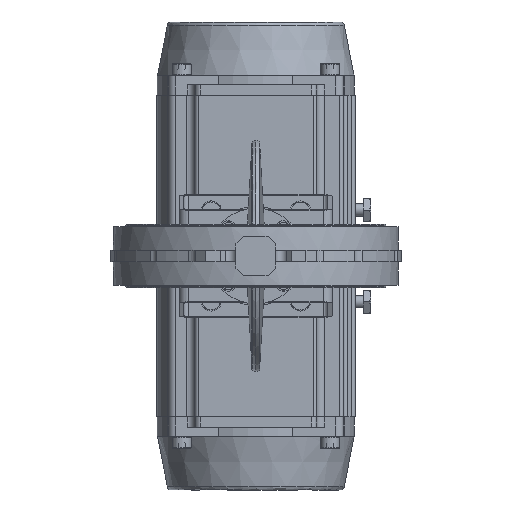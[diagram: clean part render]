
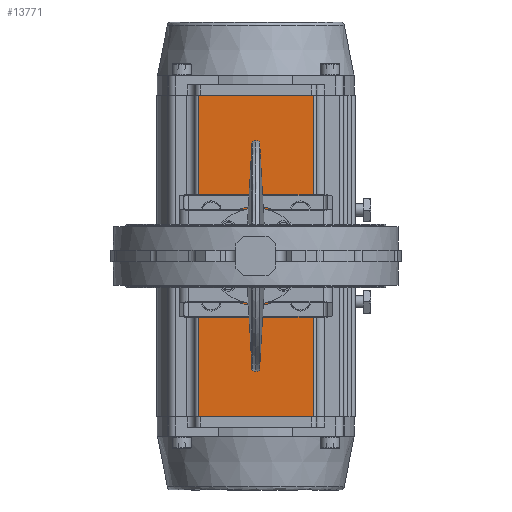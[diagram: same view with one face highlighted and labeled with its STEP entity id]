
A CAD part, front view. The second image highlights one B-rep face of the part: STEP entity #13771.
In plain terms, the highlighted planar face has unit normal (0, -1, 0).
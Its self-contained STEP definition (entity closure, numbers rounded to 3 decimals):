
#1012 = ORIENTED_EDGE ( 'NONE', *, *, #60019, .T. ) ;
#1187 = ORIENTED_EDGE ( 'NONE', *, *, #63861, .T. ) ;
#1284 = DIRECTION ( 'NONE',  ( 0., 0., -1. ) ) ;
#3034 = CIRCLE ( 'NONE', #54472, 9.5 ) ;
#3095 = LINE ( 'NONE', #48730, #65665 ) ;
#3139 = CARTESIAN_POINT ( 'NONE',  ( 58.336, 425., -58.336 ) ) ;
#4219 = AXIS2_PLACEMENT_3D ( 'NONE', #17940, #12296, #46369 ) ;
#5336 = AXIS2_PLACEMENT_3D ( 'NONE', #72083, #66464, #38665 ) ;
#5829 = ORIENTED_EDGE ( 'NONE', *, *, #57846, .T. ) ;
#6354 = LINE ( 'NONE', #12376, #34065 ) ;
#6803 = DIRECTION ( 'NONE',  ( 1., 0., 0. ) ) ;
#7924 = ORIENTED_EDGE ( 'NONE', *, *, #36404, .T. ) ;
#8892 = VERTEX_POINT ( 'NONE', #18545 ) ;
#9965 = CIRCLE ( 'NONE', #51821, 9.5 ) ;
#10001 = DIRECTION ( 'NONE',  ( 0., 1., 0. ) ) ;
#10603 = CARTESIAN_POINT ( 'NONE',  ( -58.336, 425., 58.336 ) ) ;
#10916 = EDGE_LOOP ( 'NONE', ( #36431, #54262 ) ) ;
#12296 = DIRECTION ( 'NONE',  ( 0., 1., 0. ) ) ;
#12376 = CARTESIAN_POINT ( 'NONE',  ( -80., 425., 210. ) ) ;
#12447 = LINE ( 'NONE', #59592, #30709 ) ;
#13308 = ORIENTED_EDGE ( 'NONE', *, *, #46719, .T. ) ;
#13342 = VERTEX_POINT ( 'NONE', #19155 ) ;
#13571 = EDGE_LOOP ( 'NONE', ( #7924, #23234 ) ) ;
#13771 = ADVANCED_FACE ( 'NONE', ( #74165, #33645, #22434, #22797, #56509, #27679 ), #38506, .T. ) ;
#13772 = CIRCLE ( 'NONE', #5336, 51. ) ;
#13997 = CIRCLE ( 'NONE', #25990, 51. ) ;
#14967 = CARTESIAN_POINT ( 'NONE',  ( 0., 425., 51. ) ) ;
#15677 = EDGE_LOOP ( 'NONE', ( #65094, #66071 ) ) ;
#16451 = EDGE_CURVE ( 'NONE', #54922, #59801, #52059, .T. ) ;
#17227 = CIRCLE ( 'NONE', #62664, 9.5 ) ;
#17239 = VERTEX_POINT ( 'NONE', #45261 ) ;
#17940 = CARTESIAN_POINT ( 'NONE',  ( 58.336, 425., 58.336 ) ) ;
#18545 = CARTESIAN_POINT ( 'NONE',  ( -58.336, 425., -48.836 ) ) ;
#19021 = CARTESIAN_POINT ( 'NONE',  ( 58.336, 425., 67.836 ) ) ;
#19155 = CARTESIAN_POINT ( 'NONE',  ( -75., 425., 210. ) ) ;
#19621 = DIRECTION ( 'NONE',  ( 0., 1., 0. ) ) ;
#20688 = DIRECTION ( 'NONE',  ( 0., 1., 0. ) ) ;
#20811 = EDGE_CURVE ( 'NONE', #34679, #29358, #51177, .T. ) ;
#20837 = VERTEX_POINT ( 'NONE', #51055 ) ;
#22260 = DIRECTION ( 'NONE',  ( 0., 0., -1. ) ) ;
#22426 = AXIS2_PLACEMENT_3D ( 'NONE', #38840, #66282, #38114 ) ;
#22434 = FACE_BOUND ( 'NONE', #13571, .T. ) ;
#22797 = FACE_BOUND ( 'NONE', #15677, .T. ) ;
#23234 = ORIENTED_EDGE ( 'NONE', *, *, #50525, .T. ) ;
#23401 = DIRECTION ( 'NONE',  ( 0., 1., 0. ) ) ;
#25990 = AXIS2_PLACEMENT_3D ( 'NONE', #70965, #19621, #1284 ) ;
#27523 = VERTEX_POINT ( 'NONE', #47331 ) ;
#27679 = FACE_OUTER_BOUND ( 'NONE', #59227, .T. ) ;
#29358 = VERTEX_POINT ( 'NONE', #49506 ) ;
#30020 = LINE ( 'NONE', #70146, #70197 ) ;
#30709 = VECTOR ( 'NONE', #46867, 1000. ) ;
#32134 = EDGE_CURVE ( 'NONE', #27523, #68752, #13997, .T. ) ;
#32840 = DIRECTION ( 'NONE',  ( 0., 0., -1. ) ) ;
#33456 = CARTESIAN_POINT ( 'NONE',  ( -58.336, 425., 58.336 ) ) ;
#33479 = EDGE_CURVE ( 'NONE', #17239, #46326, #12447, .T. ) ;
#33645 = FACE_BOUND ( 'NONE', #43558, .T. ) ;
#34065 = VECTOR ( 'NONE', #70085, 1000. ) ;
#34245 = CARTESIAN_POINT ( 'NONE',  ( -58.336, 425., -58.336 ) ) ;
#34679 = VERTEX_POINT ( 'NONE', #62486 ) ;
#36404 = EDGE_CURVE ( 'NONE', #69698, #47629, #9965, .T. ) ;
#36431 = ORIENTED_EDGE ( 'NONE', *, *, #32134, .T. ) ;
#36531 = CARTESIAN_POINT ( 'NONE',  ( 58.336, 425., 48.836 ) ) ;
#36801 = EDGE_LOOP ( 'NONE', ( #49575, #5829 ) ) ;
#37369 = CARTESIAN_POINT ( 'NONE',  ( 58.336, 425., -48.836 ) ) ;
#37856 = EDGE_CURVE ( 'NONE', #46326, #13342, #6354, .T. ) ;
#38114 = DIRECTION ( 'NONE',  ( 0., 0., -1. ) ) ;
#38506 = PLANE ( 'NONE',  #42229 ) ;
#38597 = DIRECTION ( 'NONE',  ( 0., 0., -1. ) ) ;
#38665 = DIRECTION ( 'NONE',  ( 0., 0., -1. ) ) ;
#38840 = CARTESIAN_POINT ( 'NONE',  ( -58.336, 425., -58.336 ) ) ;
#40564 = EDGE_CURVE ( 'NONE', #59801, #54922, #41387, .T. ) ;
#41237 = CARTESIAN_POINT ( 'NONE',  ( -58.336, 425., -67.836 ) ) ;
#41387 = CIRCLE ( 'NONE', #52234, 9.5 ) ;
#41693 = CIRCLE ( 'NONE', #71685, 9.5 ) ;
#41800 = DIRECTION ( 'NONE',  ( 0., -1., 0. ) ) ;
#42229 = AXIS2_PLACEMENT_3D ( 'NONE', #68913, #41800, #47084 ) ;
#42421 = DIRECTION ( 'NONE',  ( 0., 1., 0. ) ) ;
#43558 = EDGE_LOOP ( 'NONE', ( #1012, #66932 ) ) ;
#43872 = DIRECTION ( 'NONE',  ( 0., 0., -1. ) ) ;
#44674 = DIRECTION ( 'NONE',  ( 0., 1., 0. ) ) ;
#45261 = CARTESIAN_POINT ( 'NONE',  ( 75., 425., -210. ) ) ;
#45411 = DIRECTION ( 'NONE',  ( 0., 0., -1. ) ) ;
#46326 = VERTEX_POINT ( 'NONE', #69322 ) ;
#46369 = DIRECTION ( 'NONE',  ( 0., 0., -1. ) ) ;
#46719 = EDGE_CURVE ( 'NONE', #20837, #17239, #30020, .T. ) ;
#46867 = DIRECTION ( 'NONE',  ( 0., 0., 1. ) ) ;
#47084 = DIRECTION ( 'NONE',  ( 0., 0., -1. ) ) ;
#47331 = CARTESIAN_POINT ( 'NONE',  ( 0., 425., -51. ) ) ;
#47629 = VERTEX_POINT ( 'NONE', #37369 ) ;
#47650 = EDGE_CURVE ( 'NONE', #8892, #60587, #58342, .T. ) ;
#48730 = CARTESIAN_POINT ( 'NONE',  ( -75., 425., -210. ) ) ;
#48754 = AXIS2_PLACEMENT_3D ( 'NONE', #33456, #55954, #22260 ) ;
#49506 = CARTESIAN_POINT ( 'NONE',  ( -58.336, 425., 67.836 ) ) ;
#49575 = ORIENTED_EDGE ( 'NONE', *, *, #20811, .T. ) ;
#50525 = EDGE_CURVE ( 'NONE', #47629, #69698, #41693, .T. ) ;
#51055 = CARTESIAN_POINT ( 'NONE',  ( -75., 425., -210. ) ) ;
#51177 = CIRCLE ( 'NONE', #48754, 9.5 ) ;
#51821 = AXIS2_PLACEMENT_3D ( 'NONE', #3139, #42421, #66085 ) ;
#52059 = CIRCLE ( 'NONE', #4219, 9.5 ) ;
#52234 = AXIS2_PLACEMENT_3D ( 'NONE', #61318, #10001, #32840 ) ;
#54262 = ORIENTED_EDGE ( 'NONE', *, *, #60270, .T. ) ;
#54470 = ORIENTED_EDGE ( 'NONE', *, *, #33479, .T. ) ;
#54472 = AXIS2_PLACEMENT_3D ( 'NONE', #34245, #23401, #63115 ) ;
#54922 = VERTEX_POINT ( 'NONE', #19021 ) ;
#55054 = ORIENTED_EDGE ( 'NONE', *, *, #37856, .T. ) ;
#55954 = DIRECTION ( 'NONE',  ( 0., 1., 0. ) ) ;
#56509 = FACE_BOUND ( 'NONE', #10916, .T. ) ;
#57846 = EDGE_CURVE ( 'NONE', #29358, #34679, #17227, .T. ) ;
#58342 = CIRCLE ( 'NONE', #22426, 9.5 ) ;
#59227 = EDGE_LOOP ( 'NONE', ( #13308, #54470, #55054, #1187 ) ) ;
#59592 = CARTESIAN_POINT ( 'NONE',  ( 75., 425., -210. ) ) ;
#59801 = VERTEX_POINT ( 'NONE', #36531 ) ;
#60019 = EDGE_CURVE ( 'NONE', #60587, #8892, #3034, .T. ) ;
#60270 = EDGE_CURVE ( 'NONE', #68752, #27523, #13772, .T. ) ;
#60587 = VERTEX_POINT ( 'NONE', #41237 ) ;
#61318 = CARTESIAN_POINT ( 'NONE',  ( 58.336, 425., 58.336 ) ) ;
#62486 = CARTESIAN_POINT ( 'NONE',  ( -58.336, 425., 48.836 ) ) ;
#62664 = AXIS2_PLACEMENT_3D ( 'NONE', #10603, #44674, #45411 ) ;
#63115 = DIRECTION ( 'NONE',  ( 0., 0., -1. ) ) ;
#63861 = EDGE_CURVE ( 'NONE', #13342, #20837, #3095, .T. ) ;
#65094 = ORIENTED_EDGE ( 'NONE', *, *, #40564, .T. ) ;
#65376 = CARTESIAN_POINT ( 'NONE',  ( 58.336, 425., -67.836 ) ) ;
#65665 = VECTOR ( 'NONE', #43872, 1000. ) ;
#66071 = ORIENTED_EDGE ( 'NONE', *, *, #16451, .T. ) ;
#66085 = DIRECTION ( 'NONE',  ( 0., 0., -1. ) ) ;
#66282 = DIRECTION ( 'NONE',  ( 0., 1., 0. ) ) ;
#66464 = DIRECTION ( 'NONE',  ( 0., 1., 0. ) ) ;
#66932 = ORIENTED_EDGE ( 'NONE', *, *, #47650, .T. ) ;
#68752 = VERTEX_POINT ( 'NONE', #14967 ) ;
#68913 = CARTESIAN_POINT ( 'NONE',  ( -80., 425., -210. ) ) ;
#69322 = CARTESIAN_POINT ( 'NONE',  ( 75., 425., 210. ) ) ;
#69698 = VERTEX_POINT ( 'NONE', #65376 ) ;
#70085 = DIRECTION ( 'NONE',  ( -1., 0., 0. ) ) ;
#70146 = CARTESIAN_POINT ( 'NONE',  ( -80., 425., -210. ) ) ;
#70197 = VECTOR ( 'NONE', #6803, 1000. ) ;
#70965 = CARTESIAN_POINT ( 'NONE',  ( 0., 425., 0. ) ) ;
#71685 = AXIS2_PLACEMENT_3D ( 'NONE', #73137, #20688, #38597 ) ;
#72083 = CARTESIAN_POINT ( 'NONE',  ( 0., 425., 0. ) ) ;
#73137 = CARTESIAN_POINT ( 'NONE',  ( 58.336, 425., -58.336 ) ) ;
#74165 = FACE_BOUND ( 'NONE', #36801, .T. ) ;
